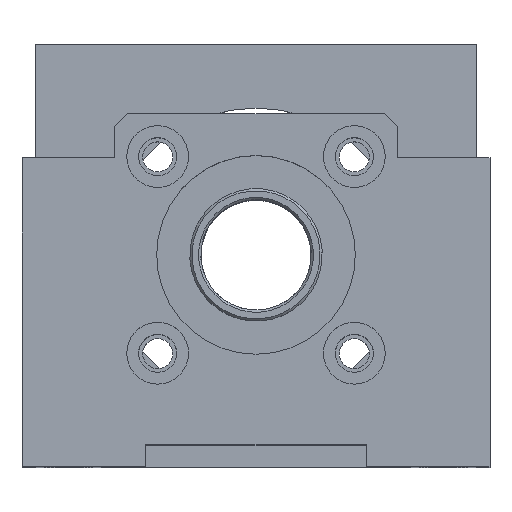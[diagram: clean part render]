
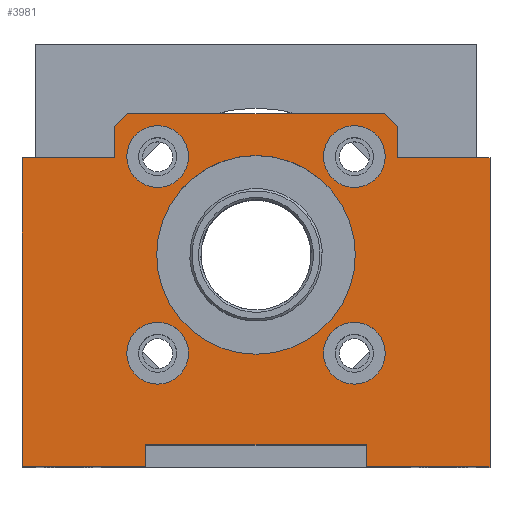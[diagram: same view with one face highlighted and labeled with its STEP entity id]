
A CAD part, top view. The second image highlights one B-rep face of the part: STEP entity #3981.
In plain terms, the highlighted planar face has unit normal (0, 0, 1).
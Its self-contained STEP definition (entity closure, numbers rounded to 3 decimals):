
#2130=CARTESIAN_POINT('',(22.274,22.274,257.));
#2131=DIRECTION('',(0.,0.,-1.));
#2132=DIRECTION('',(-1.,0.,0.));
#2133=AXIS2_PLACEMENT_3D('',#2130,#2131,#2132);
#2135=CARTESIAN_POINT('',(22.274,22.274,257.));
#2136=DIRECTION('',(0.,0.,-1.));
#2137=DIRECTION('',(1.,0.,0.));
#2138=AXIS2_PLACEMENT_3D('',#2135,#2136,#2137);
#2140=CARTESIAN_POINT('',(22.274,-22.274,257.));
#2141=DIRECTION('',(0.,0.,-1.));
#2142=DIRECTION('',(-1.,0.,0.));
#2143=AXIS2_PLACEMENT_3D('',#2140,#2141,#2142);
#2145=CARTESIAN_POINT('',(22.274,-22.274,257.));
#2146=DIRECTION('',(0.,0.,-1.));
#2147=DIRECTION('',(1.,0.,0.));
#2148=AXIS2_PLACEMENT_3D('',#2145,#2146,#2147);
#2150=CARTESIAN_POINT('',(-22.274,22.274,257.));
#2151=DIRECTION('',(0.,0.,-1.));
#2152=DIRECTION('',(-1.,0.,0.));
#2153=AXIS2_PLACEMENT_3D('',#2150,#2151,#2152);
#2155=CARTESIAN_POINT('',(-22.274,22.274,257.));
#2156=DIRECTION('',(0.,0.,-1.));
#2157=DIRECTION('',(1.,0.,0.));
#2158=AXIS2_PLACEMENT_3D('',#2155,#2156,#2157);
#2160=CARTESIAN_POINT('',(-22.274,-22.274,257.));
#2161=DIRECTION('',(0.,0.,-1.));
#2162=DIRECTION('',(-1.,0.,0.));
#2163=AXIS2_PLACEMENT_3D('',#2160,#2161,#2162);
#2165=CARTESIAN_POINT('',(-22.274,-22.274,257.));
#2166=DIRECTION('',(0.,0.,-1.));
#2167=DIRECTION('',(1.,0.,0.));
#2168=AXIS2_PLACEMENT_3D('',#2165,#2166,#2167);
#2170=CARTESIAN_POINT('',(0.,0.,257.));
#2171=DIRECTION('',(0.,0.,-1.));
#2172=DIRECTION('',(-1.,0.,0.));
#2173=AXIS2_PLACEMENT_3D('',#2170,#2171,#2172);
#2175=CARTESIAN_POINT('',(0.,0.,257.));
#2176=DIRECTION('',(0.,0.,-1.));
#2177=DIRECTION('',(1.,0.,0.));
#2178=AXIS2_PLACEMENT_3D('',#2175,#2176,#2177);
#2180=DIRECTION('',(-0.707,-0.707,0.));
#2181=VECTOR('',#2180,4.243);
#2182=CARTESIAN_POINT('',(-29.,32.,257.));
#2183=LINE('',#2182,#2181);
#2184=DIRECTION('',(-0.707,0.707,0.));
#2185=VECTOR('',#2184,4.243);
#2186=CARTESIAN_POINT('',(32.,29.,257.));
#2187=LINE('',#2186,#2185);
#2445=DIRECTION('',(-1.,0.,0.));
#2446=VECTOR('',#2445,28.);
#2447=CARTESIAN_POINT('',(53.,-48.,257.));
#2448=LINE('',#2447,#2446);
#2489=DIRECTION('',(-1.,0.,0.));
#2490=VECTOR('',#2489,28.);
#2491=CARTESIAN_POINT('',(-25.,-48.,257.));
#2492=LINE('',#2491,#2490);
#2538=DIRECTION('',(1.,0.,0.));
#2539=VECTOR('',#2538,21.);
#2540=CARTESIAN_POINT('',(-53.,22.,257.));
#2541=LINE('',#2540,#2539);
#2599=DIRECTION('',(0.,1.,0.));
#2600=VECTOR('',#2599,7.);
#2601=CARTESIAN_POINT('',(-32.,22.,257.));
#2602=LINE('',#2601,#2600);
#2611=DIRECTION('',(1.,0.,0.));
#2612=VECTOR('',#2611,58.);
#2613=CARTESIAN_POINT('',(-29.,32.,257.));
#2614=LINE('',#2613,#2612);
#2623=DIRECTION('',(0.,-1.,0.));
#2624=VECTOR('',#2623,7.);
#2625=CARTESIAN_POINT('',(32.,29.,257.));
#2626=LINE('',#2625,#2624);
#2663=DIRECTION('',(1.,0.,0.));
#2664=VECTOR('',#2663,21.);
#2665=CARTESIAN_POINT('',(32.,22.,257.));
#2666=LINE('',#2665,#2664);
#3017=DIRECTION('',(0.,1.,0.));
#3018=VECTOR('',#3017,35.);
#3019=CARTESIAN_POINT('',(-53.,-13.,257.));
#3020=LINE('',#3019,#3018);
#3021=DIRECTION('',(0.,1.,0.));
#3022=VECTOR('',#3021,35.);
#3023=CARTESIAN_POINT('',(-53.,-48.,257.));
#3024=LINE('',#3023,#3022);
#3081=DIRECTION('',(0.,-1.,0.));
#3082=VECTOR('',#3081,35.);
#3083=CARTESIAN_POINT('',(53.,-13.,257.));
#3084=LINE('',#3083,#3082);
#3085=DIRECTION('',(0.,-1.,0.));
#3086=VECTOR('',#3085,35.);
#3087=CARTESIAN_POINT('',(53.,22.,257.));
#3088=LINE('',#3087,#3086);
#3293=DIRECTION('',(0.,1.,0.));
#3294=VECTOR('',#3293,5.);
#3295=CARTESIAN_POINT('',(25.,-48.,257.));
#3296=LINE('',#3295,#3294);
#3305=DIRECTION('',(-1.,0.,0.));
#3306=VECTOR('',#3305,50.);
#3307=CARTESIAN_POINT('',(25.,-43.,257.));
#3308=LINE('',#3307,#3306);
#3317=DIRECTION('',(0.,-1.,0.));
#3318=VECTOR('',#3317,5.);
#3319=CARTESIAN_POINT('',(-25.,-43.,257.));
#3320=LINE('',#3319,#3318);
#3418=CARTESIAN_POINT('',(-25.,-48.,257.));
#3419=VERTEX_POINT('',#3418);
#3420=CARTESIAN_POINT('',(-53.,-48.,257.));
#3421=VERTEX_POINT('',#3420);
#3438=CARTESIAN_POINT('',(53.,-48.,257.));
#3439=VERTEX_POINT('',#3438);
#3440=CARTESIAN_POINT('',(25.,-48.,257.));
#3441=VERTEX_POINT('',#3440);
#3444=CARTESIAN_POINT('',(-32.,22.,257.));
#3445=VERTEX_POINT('',#3444);
#3452=CARTESIAN_POINT('',(-53.,22.,257.));
#3453=VERTEX_POINT('',#3452);
#3460=CARTESIAN_POINT('',(32.,22.,257.));
#3461=VERTEX_POINT('',#3460);
#3462=CARTESIAN_POINT('',(53.,22.,257.));
#3463=VERTEX_POINT('',#3462);
#3474=CARTESIAN_POINT('',(53.,-13.,257.));
#3475=VERTEX_POINT('',#3474);
#3476=CARTESIAN_POINT('',(32.,29.,257.));
#3477=VERTEX_POINT('',#3476);
#3478=CARTESIAN_POINT('',(29.,32.,257.));
#3479=VERTEX_POINT('',#3478);
#3480=CARTESIAN_POINT('',(-29.,32.,257.));
#3481=VERTEX_POINT('',#3480);
#3482=CARTESIAN_POINT('',(-32.,29.,257.));
#3483=VERTEX_POINT('',#3482);
#3484=CARTESIAN_POINT('',(-53.,-13.,257.));
#3485=VERTEX_POINT('',#3484);
#3486=CARTESIAN_POINT('',(-25.,-43.,257.));
#3487=VERTEX_POINT('',#3486);
#3488=CARTESIAN_POINT('',(25.,-43.,257.));
#3489=VERTEX_POINT('',#3488);
#3520=CARTESIAN_POINT('',(-22.5,0.,257.));
#3521=CARTESIAN_POINT('',(22.5,0.,257.));
#3522=VERTEX_POINT('',#3520);
#3523=VERTEX_POINT('',#3521);
#3552=CARTESIAN_POINT('',(-29.274,-22.274,257.));
#3554=VERTEX_POINT('',#3552);
#3556=CARTESIAN_POINT('',(-15.274,-22.274,257.));
#3558=VERTEX_POINT('',#3556);
#3568=CARTESIAN_POINT('',(-29.274,22.274,257.));
#3570=VERTEX_POINT('',#3568);
#3572=CARTESIAN_POINT('',(-15.274,22.274,257.));
#3574=VERTEX_POINT('',#3572);
#3584=CARTESIAN_POINT('',(15.274,-22.274,257.));
#3586=VERTEX_POINT('',#3584);
#3588=CARTESIAN_POINT('',(29.274,-22.274,257.));
#3590=VERTEX_POINT('',#3588);
#3600=CARTESIAN_POINT('',(15.274,22.274,257.));
#3602=VERTEX_POINT('',#3600);
#3604=CARTESIAN_POINT('',(29.274,22.274,257.));
#3606=VERTEX_POINT('',#3604);
#3914=CARTESIAN_POINT('',(0.,0.,257.));
#3915=DIRECTION('',(0.,0.,-1.));
#3916=DIRECTION('',(1.,0.,0.));
#3917=AXIS2_PLACEMENT_3D('',#3914,#3915,#3916);
#3918=PLANE('',#3917);
#3920=ORIENTED_EDGE('',*,*,#3919,.T.);
#3922=ORIENTED_EDGE('',*,*,#3921,.T.);
#3924=ORIENTED_EDGE('',*,*,#3923,.T.);
#3926=ORIENTED_EDGE('',*,*,#3925,.T.);
#3928=ORIENTED_EDGE('',*,*,#3927,.T.);
#3930=ORIENTED_EDGE('',*,*,#3929,.T.);
#3932=ORIENTED_EDGE('',*,*,#3931,.T.);
#3934=ORIENTED_EDGE('',*,*,#3933,.T.);
#3936=ORIENTED_EDGE('',*,*,#3935,.T.);
#3938=ORIENTED_EDGE('',*,*,#3937,.F.);
#3940=ORIENTED_EDGE('',*,*,#3939,.T.);
#3942=ORIENTED_EDGE('',*,*,#3941,.F.);
#3944=ORIENTED_EDGE('',*,*,#3943,.T.);
#3946=ORIENTED_EDGE('',*,*,#3945,.T.);
#3948=ORIENTED_EDGE('',*,*,#3947,.T.);
#3950=ORIENTED_EDGE('',*,*,#3949,.T.);
#3951=EDGE_LOOP('',(#3920,#3922,#3924,#3926,#3928,#3930,#3932,#3934,#3936,#3938,
#3940,#3942,#3944,#3946,#3948,#3950));
#3952=FACE_OUTER_BOUND('',#3951,.F.);
#3954=ORIENTED_EDGE('',*,*,#3953,.F.);
#3956=ORIENTED_EDGE('',*,*,#3955,.F.);
#3957=EDGE_LOOP('',(#3954,#3956));
#3958=FACE_BOUND('',#3957,.F.);
#3960=ORIENTED_EDGE('',*,*,#3959,.F.);
#3962=ORIENTED_EDGE('',*,*,#3961,.F.);
#3963=EDGE_LOOP('',(#3960,#3962));
#3964=FACE_BOUND('',#3963,.F.);
#3966=ORIENTED_EDGE('',*,*,#3965,.F.);
#3968=ORIENTED_EDGE('',*,*,#3967,.F.);
#3969=EDGE_LOOP('',(#3966,#3968));
#3970=FACE_BOUND('',#3969,.F.);
#3971=ORIENTED_EDGE('',*,*,#3894,.F.);
#3972=ORIENTED_EDGE('',*,*,#3908,.F.);
#3973=EDGE_LOOP('',(#3971,#3972));
#3974=FACE_BOUND('',#3973,.F.);
#3976=ORIENTED_EDGE('',*,*,#3975,.F.);
#3978=ORIENTED_EDGE('',*,*,#3977,.F.);
#3979=EDGE_LOOP('',(#3976,#3978));
#3980=FACE_BOUND('',#3979,.F.);
#2134=CIRCLE('',#2133,7.);
#2139=CIRCLE('',#2138,7.);
#2144=CIRCLE('',#2143,7.);
#2149=CIRCLE('',#2148,7.);
#2154=CIRCLE('',#2153,7.);
#2159=CIRCLE('',#2158,7.);
#2164=CIRCLE('',#2163,7.);
#2169=CIRCLE('',#2168,7.);
#2174=CIRCLE('',#2173,22.5);
#2179=CIRCLE('',#2178,22.5);
#3894=EDGE_CURVE('',#3522,#3523,#2174,.T.);
#3908=EDGE_CURVE('',#3523,#3522,#2179,.T.);
#3919=EDGE_CURVE('',#3439,#3441,#2448,.T.);
#3921=EDGE_CURVE('',#3441,#3489,#3296,.T.);
#3923=EDGE_CURVE('',#3489,#3487,#3308,.T.);
#3925=EDGE_CURVE('',#3487,#3419,#3320,.T.);
#3927=EDGE_CURVE('',#3419,#3421,#2492,.T.);
#3929=EDGE_CURVE('',#3421,#3485,#3024,.T.);
#3931=EDGE_CURVE('',#3485,#3453,#3020,.T.);
#3933=EDGE_CURVE('',#3453,#3445,#2541,.T.);
#3935=EDGE_CURVE('',#3445,#3483,#2602,.T.);
#3937=EDGE_CURVE('',#3481,#3483,#2183,.T.);
#3939=EDGE_CURVE('',#3481,#3479,#2614,.T.);
#3941=EDGE_CURVE('',#3477,#3479,#2187,.T.);
#3943=EDGE_CURVE('',#3477,#3461,#2626,.T.);
#3945=EDGE_CURVE('',#3461,#3463,#2666,.T.);
#3947=EDGE_CURVE('',#3463,#3475,#3088,.T.);
#3949=EDGE_CURVE('',#3475,#3439,#3084,.T.);
#3953=EDGE_CURVE('',#3586,#3590,#2144,.T.);
#3955=EDGE_CURVE('',#3590,#3586,#2149,.T.);
#3959=EDGE_CURVE('',#3570,#3574,#2154,.T.);
#3961=EDGE_CURVE('',#3574,#3570,#2159,.T.);
#3965=EDGE_CURVE('',#3554,#3558,#2164,.T.);
#3967=EDGE_CURVE('',#3558,#3554,#2169,.T.);
#3975=EDGE_CURVE('',#3602,#3606,#2134,.T.);
#3977=EDGE_CURVE('',#3606,#3602,#2139,.T.);
#3981=ADVANCED_FACE('',(#3952,#3958,#3964,#3970,#3974,#3980),#3918,.F.);
